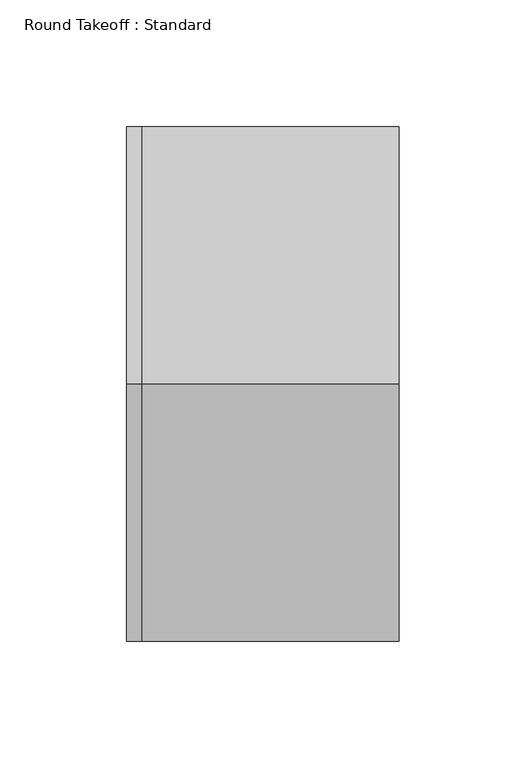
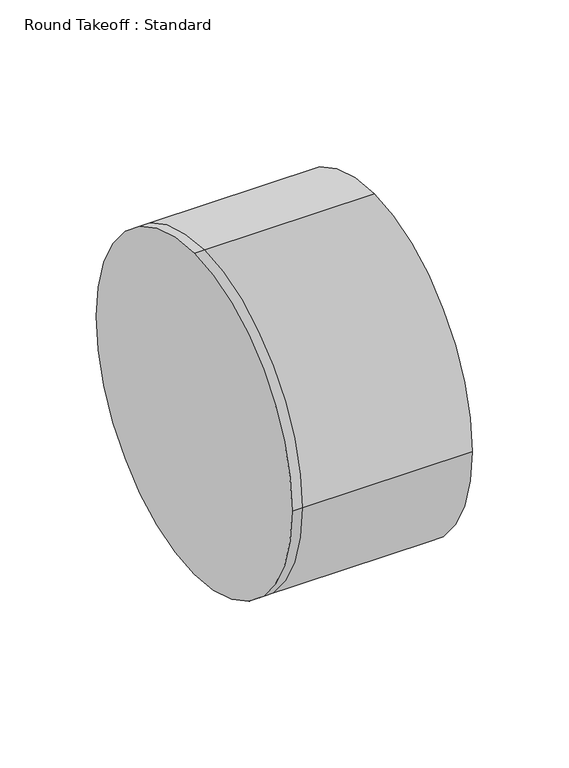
"""IFC4 building model written with IfcOpenShell, lengths in millimetres: duct fitting geometry, Round Takeoff : Standard."""

from ifc_helpers import new_model, si_unit, frame, origin, place, context, project, spatial, circle_curve, source, transform, mapped, element, save
from ifc_brep_helpers import plane_surface, cylinder_surface, advanced_brep


def round_takeoff_standard_1127d77f(model_context):
    return source(origin(), model_context, "Body", "AdvancedBrep", [
        advanced_brep(
        [(101.6, 0.0, 101.6), (101.6, -101.6, 0.0), (101.6, 0.0, -101.6), (101.6, 101.6, 0.0), (0.0, 101.6, 0.0), (0.0, 0.0, 101.6), (0.0, 0.0, -101.6), (0.0, -101.6, 0.0), (-6.096, 0.0, 101.6), (-6.096, 101.6, 0.0), (-6.096, 0.0, -101.6), (-6.096, -101.6, 0.0)],
        [
            (0, 1, circle_curve(frame((101.6, 0.0, 0.0), z_axis=(1.0, 0.0, 0.0), x_axis=(0.0, 1.0, 0.0)), 101.6)),
            (1, 2, circle_curve(frame((101.6, 0.0, 0.0), z_axis=(1.0, 0.0, 0.0), x_axis=(0.0, 1.0, 0.0)), 101.6)),
            (2, 3, circle_curve(frame((101.6, 0.0, 0.0), z_axis=(1.0, 0.0, 0.0), x_axis=(0.0, 1.0, 0.0)), 101.6)),
            (3, 0, circle_curve(frame((101.6, 0.0, 0.0), z_axis=(1.0, 0.0, 0.0), x_axis=(0.0, 1.0, 0.0)), 101.6)),
            (3, 4),
            (4, 5, circle_curve(frame((0.0, 0.0, 0.0), z_axis=(1.0, 0.0, 0.0), x_axis=(0.0, 1.0, 0.0)), 101.6)),
            (5, 0),
            (2, 6),
            (6, 4, circle_curve(frame((0.0, 0.0, 0.0), z_axis=(1.0, 0.0, 0.0), x_axis=(0.0, 1.0, 0.0)), 101.6)),
            (1, 7),
            (7, 6, circle_curve(frame((0.0, 0.0, 0.0), z_axis=(1.0, 0.0, 0.0), x_axis=(0.0, 1.0, 0.0)), 101.6)),
            (5, 7, circle_curve(frame((0.0, 0.0, 0.0), z_axis=(1.0, 0.0, 0.0), x_axis=(0.0, 1.0, 0.0)), 101.6)),
            (8, 9, circle_curve(frame((-6.096, 0.0, 0.0), z_axis=(-1.0, 0.0, 0.0), x_axis=(0.0, 1.0, 0.0)), 101.6)),
            (9, 10, circle_curve(frame((-6.096, 0.0, 0.0), z_axis=(-1.0, 0.0, 0.0), x_axis=(0.0, 1.0, 0.0)), 101.6)),
            (10, 11, circle_curve(frame((-6.096, 0.0, 0.0), z_axis=(-1.0, 0.0, 0.0), x_axis=(0.0, 1.0, 0.0)), 101.6)),
            (11, 8, circle_curve(frame((-6.096, 0.0, 0.0), z_axis=(-1.0, 0.0, 0.0), x_axis=(0.0, 1.0, 0.0)), 101.6)),
            (8, 5),
            (4, 9),
            (6, 10),
            (7, 11),
        ],
        [
            plane_surface(frame((101.6, 0.0, 0.0), z_axis=(1.0, 0.0, 0.0), x_axis=(0.0, 0.0, 1.0))),
            cylinder_surface(frame((0.0, 0.0, 0.0), z_axis=(-1.0, 0.0, 0.0), x_axis=(0.0, 1.0, 0.0)), 101.6),
            plane_surface(frame((-6.096, 0.0, 0.0), z_axis=(-1.0, 0.0, 0.0), x_axis=(0.0, 0.0, 1.0))),
            cylinder_surface(frame((-6.096, 0.0, 0.0), z_axis=(-1.0, 0.0, 0.0), x_axis=(0.0, 1.0, 0.0)), 101.6),
        ],
        [
            (0, [[1, 2, 3, 4]]),
            (1, [[-4, 5, 6, 7]]),
            (1, [[-3, 8, 9, -5]]),
            (1, [[-2, 10, 11, -8]]),
            (1, [[-1, -7, 12, -10]]),
            (2, [[13, 14, 15, 16]]),
            (3, [[-13, 17, -6, 18]]),
            (3, [[-14, -18, -9, 19]]),
            (3, [[-15, -19, -11, 20]]),
            (3, [[-16, -20, -12, -17]]),
        ],
    ),
    ])


if __name__ == "__main__":
    model = new_model("IFC4")
    model_context = context("Model", 3, world=origin())
    ifc_project = project(units=[si_unit("LENGTHUNIT", "METRE", prefix="MILLI")], contexts=[model_context])
    site = spatial("IfcSite", under=ifc_project)
    building = spatial("IfcBuilding", under=site)
    placement = place(None, origin())
    round_takeoff_standard_shape = round_takeoff_standard_1127d77f(model_context)
    element("IfcDuctFitting", 1, ObjectType="Round Takeoff : Standard", at=placement, inside=building, context=model_context, shape_type="MappedRepresentation", body=[
        mapped(round_takeoff_standard_shape, transform((0.0, 0.0, 0.0), x_axis=(1.0, 0.0, 0.0), y_axis=(0.0, 1.0, 0.0), z_axis=(0.0, 0.0, 1.0))),
    ])
    save(model, "model.ifc")
